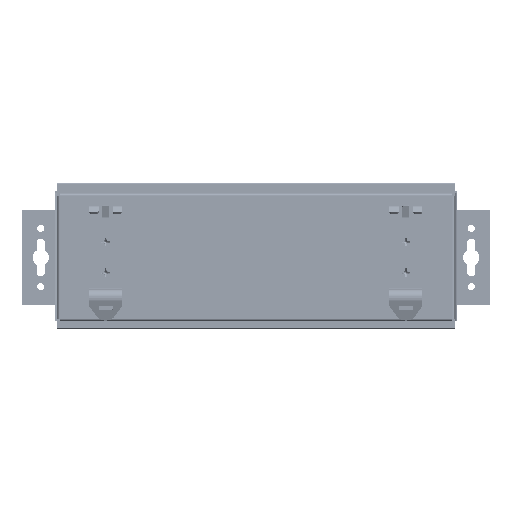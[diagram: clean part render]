
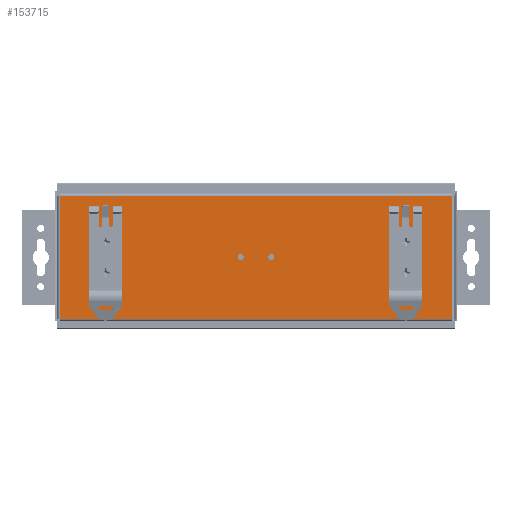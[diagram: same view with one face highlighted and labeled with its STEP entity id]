
A CAD part, front view. The second image highlights one B-rep face of the part: STEP entity #153715.
In plain terms, the highlighted planar face has unit normal (0, -1, 0).
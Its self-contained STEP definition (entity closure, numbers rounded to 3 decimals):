
#3919=FACE_BOUND('',#17360,.T.);
#3920=FACE_BOUND('',#17361,.T.);
#3921=FACE_BOUND('',#17362,.T.);
#3922=FACE_BOUND('',#17363,.T.);
#3923=FACE_BOUND('',#17364,.T.);
#3924=FACE_BOUND('',#17365,.T.);
#5022=CIRCLE('',#162434,1.265);
#5024=CIRCLE('',#162437,1.265);
#5026=CIRCLE('',#162440,1.265);
#5028=CIRCLE('',#162443,1.265);
#5030=CIRCLE('',#162446,1.265);
#5032=CIRCLE('',#162449,1.265);
#9120=FACE_OUTER_BOUND('',#17359,.T.);
#17359=EDGE_LOOP('',(#108298,#108299,#108300,#108301));
#17360=EDGE_LOOP('',(#108302));
#17361=EDGE_LOOP('',(#108303));
#17362=EDGE_LOOP('',(#108304));
#17363=EDGE_LOOP('',(#108305));
#17364=EDGE_LOOP('',(#108306));
#17365=EDGE_LOOP('',(#108307));
#27459=LINE('',#236507,#46093);
#27472=LINE('',#236542,#46106);
#27478=LINE('',#236561,#46112);
#27490=LINE('',#236593,#46124);
#46093=VECTOR('',#179693,10.);
#46106=VECTOR('',#179736,10.);
#46112=VECTOR('',#179762,10.);
#46124=VECTOR('',#179808,10.);
#64302=VERTEX_POINT('',#236443);
#64304=VERTEX_POINT('',#236449);
#64306=VERTEX_POINT('',#236455);
#64308=VERTEX_POINT('',#236461);
#64310=VERTEX_POINT('',#236467);
#64312=VERTEX_POINT('',#236473);
#64314=VERTEX_POINT('',#236504);
#64315=VERTEX_POINT('',#236506);
#64322=VERTEX_POINT('',#236541);
#64325=VERTEX_POINT('',#236559);
#80910=EDGE_CURVE('',#64302,#64302,#5022,.T.);
#80913=EDGE_CURVE('',#64304,#64304,#5024,.T.);
#80916=EDGE_CURVE('',#64306,#64306,#5026,.T.);
#80919=EDGE_CURVE('',#64308,#64308,#5028,.T.);
#80922=EDGE_CURVE('',#64310,#64310,#5030,.T.);
#80925=EDGE_CURVE('',#64312,#64312,#5032,.T.);
#80941=EDGE_CURVE('',#64315,#64314,#27459,.T.);
#80959=EDGE_CURVE('',#64322,#64315,#27472,.T.);
#80970=EDGE_CURVE('',#64314,#64325,#27478,.T.);
#80987=EDGE_CURVE('',#64325,#64322,#27490,.T.);
#108298=ORIENTED_EDGE('',*,*,#80941,.T.);
#108299=ORIENTED_EDGE('',*,*,#80970,.T.);
#108300=ORIENTED_EDGE('',*,*,#80987,.T.);
#108301=ORIENTED_EDGE('',*,*,#80959,.T.);
#108302=ORIENTED_EDGE('',*,*,#80910,.T.);
#108303=ORIENTED_EDGE('',*,*,#80913,.T.);
#108304=ORIENTED_EDGE('',*,*,#80916,.T.);
#108305=ORIENTED_EDGE('',*,*,#80919,.T.);
#108306=ORIENTED_EDGE('',*,*,#80922,.T.);
#108307=ORIENTED_EDGE('',*,*,#80925,.T.);
#147453=PLANE('',#162510);
#153715=ADVANCED_FACE('',(#9120,#3919,#3920,#3921,#3922,#3923,#3924),#147453,
 .F.);
#162434=AXIS2_PLACEMENT_3D('',#236444,#179611,#179612);
#162437=AXIS2_PLACEMENT_3D('',#236450,#179618,#179619);
#162440=AXIS2_PLACEMENT_3D('',#236456,#179625,#179626);
#162443=AXIS2_PLACEMENT_3D('',#236462,#179632,#179633);
#162446=AXIS2_PLACEMENT_3D('',#236468,#179639,#179640);
#162449=AXIS2_PLACEMENT_3D('',#236474,#179646,#179647);
#162510=AXIS2_PLACEMENT_3D('',#236596,#179813,#179814);
#179611=DIRECTION('center_axis',(0.,1.,0.));
#179612=DIRECTION('ref_axis',(0.,0.,-1.));
#179618=DIRECTION('center_axis',(0.,1.,0.));
#179619=DIRECTION('ref_axis',(0.,0.,-1.));
#179625=DIRECTION('center_axis',(0.,1.,0.));
#179626=DIRECTION('ref_axis',(0.,0.,-1.));
#179632=DIRECTION('center_axis',(0.,1.,0.));
#179633=DIRECTION('ref_axis',(0.,0.,-1.));
#179639=DIRECTION('center_axis',(0.,1.,0.));
#179640=DIRECTION('ref_axis',(0.,0.,-1.));
#179646=DIRECTION('center_axis',(0.,1.,0.));
#179647=DIRECTION('ref_axis',(0.,0.,-1.));
#179693=DIRECTION('',(-1.,0.,0.));
#179736=DIRECTION('',(0.,0.,1.));
#179762=DIRECTION('',(0.,0.,-1.));
#179808=DIRECTION('',(1.,0.,0.));
#179813=DIRECTION('center_axis',(0.,1.,0.));
#179814=DIRECTION('ref_axis',(1.,0.,0.));
#236443=CARTESIAN_POINT('',(143.425,-13.1,-30.236));
#236444=CARTESIAN_POINT('Origin',(143.425,-13.1,-31.5));
#236449=CARTESIAN_POINT('',(73.475,-13.1,-23.736));
#236450=CARTESIAN_POINT('Origin',(73.475,-13.1,-25.));
#236455=CARTESIAN_POINT('',(16.525,-13.1,-17.236));
#236456=CARTESIAN_POINT('Origin',(16.525,-13.1,-18.5));
#236461=CARTESIAN_POINT('',(16.525,-13.1,-30.236));
#236462=CARTESIAN_POINT('Origin',(16.525,-13.1,-31.5));
#236467=CARTESIAN_POINT('',(86.475,-13.1,-23.736));
#236468=CARTESIAN_POINT('Origin',(86.475,-13.1,-25.));
#236473=CARTESIAN_POINT('',(143.425,-13.1,-17.236));
#236474=CARTESIAN_POINT('Origin',(143.425,-13.1,-18.5));
#236504=CARTESIAN_POINT('',(-2.965,-13.1,0.99));
#236506=CARTESIAN_POINT('',(162.915,-13.1,0.99));
#236507=CARTESIAN_POINT('',(38.505,-13.1,0.99));
#236541=CARTESIAN_POINT('',(162.915,-13.1,-50.99));
#236542=CARTESIAN_POINT('',(162.915,-13.1,-11.5));
#236559=CARTESIAN_POINT('',(-2.965,-13.1,-50.99));
#236561=CARTESIAN_POINT('',(-2.965,-13.1,-37.995));
#236593=CARTESIAN_POINT('',(121.95,-13.1,-50.99));
#236596=CARTESIAN_POINT('Origin',(79.975,-13.1,-25.));
